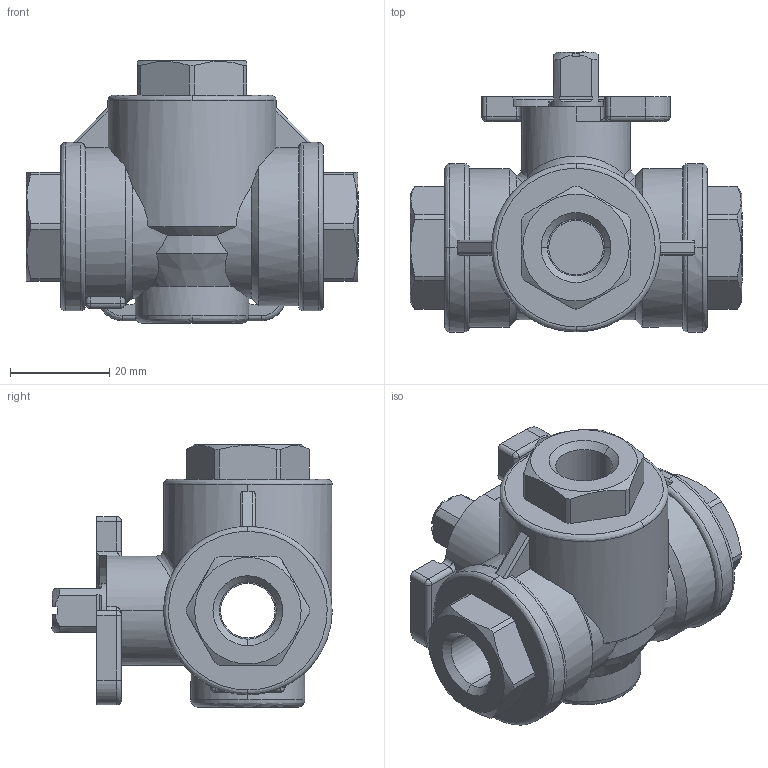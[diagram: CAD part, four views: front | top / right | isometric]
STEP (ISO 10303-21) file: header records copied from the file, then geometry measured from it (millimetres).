
FILE_DESCRIPTION (( 'STEP AP214' ), '1' );
FILE_NAME ('A35 1-4 BS.STEP', '2016-10-24T11:13:21', ( 'Gebruiker' ), ( 'Hewlett-Packard Company' ), 'SwSTEP 2.0', 'SolidWorks 2015', '' );
FILE_SCHEMA (( 'AUTOMOTIVE_DESIGN' ));
Length unit declared in the file: millimetre
Products named in the file (2): A35 1-4 BS; 3590020000
Assembly tree (1 placements, depth 2):
  A35 1-4 BS
    3590020000
Bounding box: 67 x 56.54 x 53 mm (x, y, z)
Volume: 56280 mm3; surface area: 20457.2 mm2
Topology: 1 solids, 1 shells, 306 faces, 811 edges, 509 vertices
Faces by surface type: cylinder 123, plane 106, cone 47, bspline 30
Entity records: 16375 total; most frequent: CARTESIAN_POINT 5839, ORIENTED_EDGE 1592, DIRECTION 1421, EDGE_CURVE 796, AXIS2_PLACEMENT_3D 557, VERTEX_POINT 505, EDGE_LOOP 321, VECTOR 307
